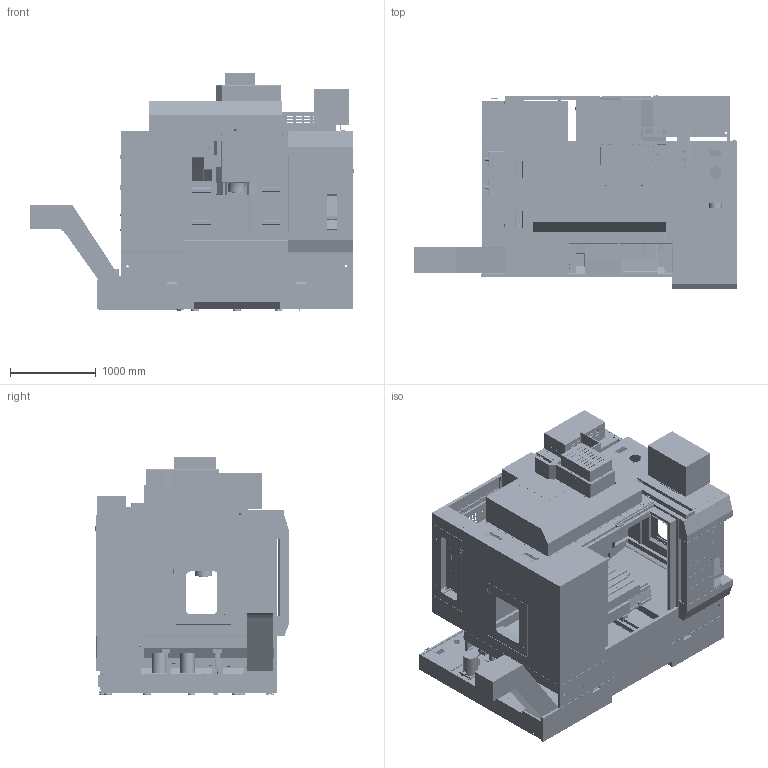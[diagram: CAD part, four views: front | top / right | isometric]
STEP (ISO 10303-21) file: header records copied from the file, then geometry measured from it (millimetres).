
FILE_DESCRIPTION(/* description */ (''),/* implementation_level */ '2;1');
FILE_NAME(/* name */ 'VF900应用简化_左侧排屑机.stp',/* time_stamp */ '2024-12-21T10:07:28+08:00',/* author */ (''),/* organization */ (''),/* preprocessor_version */ 'ST-DEVELOPER v20',/* originating_system */ 'SIEMENS PLM Software NX2406.1700',/* authorisation */ '');
FILE_SCHEMA (('AUTOMOTIVE_DESIGN { 1 0 10303 214 3 1 1 1 }'));
Products named in the file (1): VF900应用简化_左侧排屑机_
objects
Bounding box: 3764.5 x 2256.5 x 2777 mm (x, y, z)
Volume: 1834846853.2 mm3; surface area: 145973696.6 mm2
Topology: 28 solids, 280 shells, 19487 faces, 52814 edges, 33223 vertices
Faces by surface type: plane 11908, cylinder 6535, sphere 416, bspline 330, cone 215, torus 82, extrusion 1
Full cylindrical faces by diameter (mm): 1.5 x320, 2.3 x4, 2.5 x20, 3 x4, 3.2 x14, 3.3 x8, 4 x27, 4.134 x20, 4.2 x106, 4.5 x6, 4.917 x52, 5 x36, 5.2 x28, 5.5 x50, 6 x135, 6.3 x20, 6.313 x60, 6.4 x161, 6.5 x17, 6.647 x81, 6.8 x16, 7 x77, 7.5 x4, 8 x44, 8.5 x2, 8.8 x296, 9 x24, 10 x24, 10.106 x10, 10.7 x29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
Entity records: 643670 total; most frequent: CARTESIAN_POINT 122996, DIRECTION 100777, ORIENTED_EDGE 98430, EDGE_CURVE 49224, VECTOR 35057, LINE 35056, AXIS2_PLACEMENT_3D 32860, VERTEX_POINT 32396
